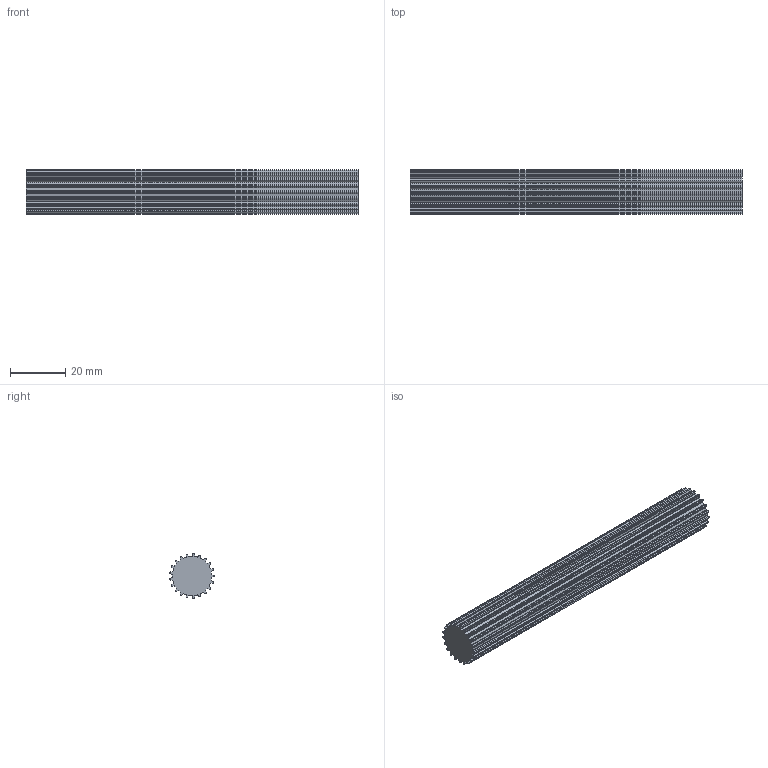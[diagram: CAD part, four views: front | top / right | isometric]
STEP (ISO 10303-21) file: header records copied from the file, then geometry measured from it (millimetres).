
FILE_DESCRIPTION( ( 'STEP AP214' ), '1' );
FILE_NAME( 'C:/Users/StangenbergN/Documents/CAD_Step/1/16092100.stp', '2019-07-25T19:41:10', ( '' ), ( '' ), ' ', 'PARTsolutions', ' ' );
FILE_SCHEMA( ( 'AUTOMOTIVE_DESIGN { 1 0 10303 214 1 1 1 1 }' ) );
Length unit declared in the file: millimetre
Products named in the file (1): _16092100
Bounding box: 120 x 16.13 x 16.17 mm (x, y, z)
Volume: 21017.9 mm3; surface area: 9238.4 mm2
Topology: 1 solids, 1 shells, 170 faces, 504 edges, 336 vertices
Faces by surface type: cylinder 105, plane 65
Entity records: 7154 total; most frequent: DIRECTION 1056, CARTESIAN_POINT 1011, ORIENTED_EDGE 1008, EDGE_CURVE 504, AXIS2_PLACEMENT_3D 381, VERTEX_POINT 336, LINE 294, VECTOR 294
